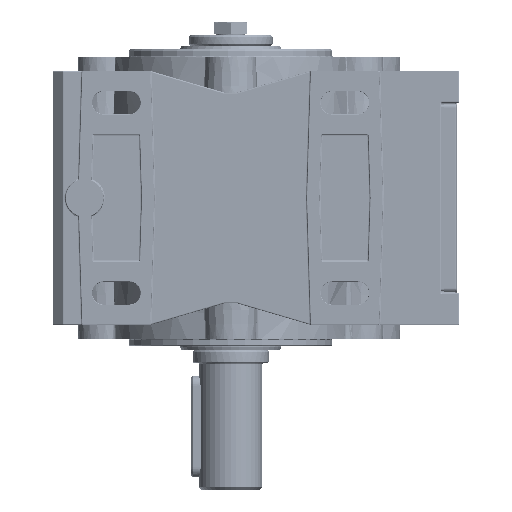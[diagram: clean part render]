
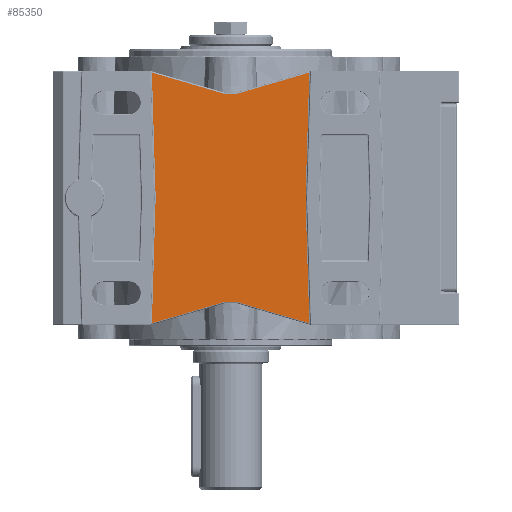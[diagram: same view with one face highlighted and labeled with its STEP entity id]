
A CAD part, left-side view. The second image highlights one B-rep face of the part: STEP entity #85350.
In plain terms, the highlighted planar face has unit normal (-1, 0, 0).
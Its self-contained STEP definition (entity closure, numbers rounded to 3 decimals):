
#79617=CARTESIAN_POINT('',(-69.0,-2.778,-62.561));
#79618=VERTEX_POINT('',#79617);
#79636=CARTESIAN_POINT('',(-69.0,-30.98,-70.826));
#79637=VERTEX_POINT('',#79636);
#79645=CARTESIAN_POINT('',(-69.0,-30.98,-70.826));
#79646=DIRECTION('',(0.0,0.96,0.281));
#79647=VECTOR('',#79646,29.388);
#79648=LINE('',#79645,#79647);
#79649=EDGE_CURVE('',#79637,#79618,#79648,.T.);
#79659=CARTESIAN_POINT('',(-69.0,-2.356,-62.5));
#79660=VERTEX_POINT('',#79659);
#79678=CARTESIAN_POINT('',(-69.0,-2.356,-64.));
#79679=DIRECTION('',(-1.0,0.,0.));
#79680=DIRECTION('',(0.,-0.142,0.99));
#79681=AXIS2_PLACEMENT_3D('',#79678,#79679,#79680);
#79682=CIRCLE('',#79681,1.5);
#79683=EDGE_CURVE('',#79618,#79660,#79682,.T.);
#79693=CARTESIAN_POINT('',(-69.0,2.356,-62.5));
#79694=VERTEX_POINT('',#79693);
#79711=CARTESIAN_POINT('',(-69.0,-2.356,-62.5));
#79712=DIRECTION('',(0.0,1.0,0.0));
#79713=VECTOR('',#79712,4.713);
#79714=LINE('',#79711,#79713);
#79715=EDGE_CURVE('',#79660,#79694,#79714,.T.);
#79725=CARTESIAN_POINT('',(-69.0,2.778,-62.561));
#79726=VERTEX_POINT('',#79725);
#79744=CARTESIAN_POINT('',(-69.0,2.356,-64.));
#79745=DIRECTION('',(-1.0,0.,0.));
#79746=DIRECTION('',(0.,0.142,0.99));
#79747=AXIS2_PLACEMENT_3D('',#79744,#79745,#79746);
#79748=CIRCLE('',#79747,1.5);
#79749=EDGE_CURVE('',#79694,#79726,#79748,.T.);
#79759=CARTESIAN_POINT('',(-69.,30.98,-70.826));
#79760=VERTEX_POINT('',#79759);
#79777=CARTESIAN_POINT('',(-69.0,2.778,-62.561));
#79778=DIRECTION('',(0.,0.96,-0.281));
#79779=VECTOR('',#79778,29.388);
#79780=LINE('',#79777,#79779);
#79781=EDGE_CURVE('',#79726,#79760,#79780,.T.);
#80070=CARTESIAN_POINT('',(-69.0,-29.501,-21.53));
#80071=VERTEX_POINT('',#80070);
#80079=CARTESIAN_POINT('',(-69.0,-29.501,-21.53));
#80080=DIRECTION('',(0.0,-0.03,-1.));
#80081=VECTOR('',#80080,49.319);
#80082=LINE('',#80079,#80081);
#80083=EDGE_CURVE('',#80071,#79637,#80082,.T.);
#80474=CARTESIAN_POINT('',(-69.0,2.778,19.561));
#80475=VERTEX_POINT('',#80474);
#80493=CARTESIAN_POINT('',(-69.,30.98,27.826));
#80494=VERTEX_POINT('',#80493);
#80502=CARTESIAN_POINT('',(-69.,30.98,27.826));
#80503=DIRECTION('',(0.,-0.96,-0.281));
#80504=VECTOR('',#80503,29.388);
#80505=LINE('',#80502,#80504);
#80506=EDGE_CURVE('',#80494,#80475,#80505,.T.);
#80516=CARTESIAN_POINT('',(-69.0,2.356,19.5));
#80517=VERTEX_POINT('',#80516);
#80535=CARTESIAN_POINT('',(-69.0,2.356,21.0));
#80536=DIRECTION('',(-1.0,0.,0.));
#80537=DIRECTION('',(0.,0.142,-0.99));
#80538=AXIS2_PLACEMENT_3D('',#80535,#80536,#80537);
#80539=CIRCLE('',#80538,1.5);
#80540=EDGE_CURVE('',#80475,#80517,#80539,.T.);
#80550=CARTESIAN_POINT('',(-69.0,-2.356,19.5));
#80551=VERTEX_POINT('',#80550);
#80568=CARTESIAN_POINT('',(-69.0,2.356,19.5));
#80569=DIRECTION('',(0.0,-1.0,0.0));
#80570=VECTOR('',#80569,4.713);
#80571=LINE('',#80568,#80570);
#80572=EDGE_CURVE('',#80517,#80551,#80571,.T.);
#80582=CARTESIAN_POINT('',(-69.0,-2.778,19.561));
#80583=VERTEX_POINT('',#80582);
#80601=CARTESIAN_POINT('',(-69.0,-2.356,21.0));
#80602=DIRECTION('',(-1.0,0.,0.));
#80603=DIRECTION('',(0.,-0.142,-0.99));
#80604=AXIS2_PLACEMENT_3D('',#80601,#80602,#80603);
#80605=CIRCLE('',#80604,1.5);
#80606=EDGE_CURVE('',#80551,#80583,#80605,.T.);
#80616=CARTESIAN_POINT('',(-69.0,-30.98,27.826));
#80617=VERTEX_POINT('',#80616);
#80634=CARTESIAN_POINT('',(-69.0,-2.778,19.561));
#80635=DIRECTION('',(0.0,-0.96,0.281));
#80636=VECTOR('',#80635,29.388);
#80637=LINE('',#80634,#80636);
#80638=EDGE_CURVE('',#80583,#80617,#80637,.T.);
#83331=CARTESIAN_POINT('',(-69.,29.5,-21.479));
#83332=VERTEX_POINT('',#83331);
#83340=CARTESIAN_POINT('',(-69.,29.5,-21.479));
#83341=DIRECTION('',(0.0,0.03,1.));
#83342=VECTOR('',#83341,49.328);
#83343=LINE('',#83340,#83342);
#83344=EDGE_CURVE('',#83332,#80494,#83343,.T.);
#83354=CARTESIAN_POINT('',(-69.,29.5,-21.521));
#83355=VERTEX_POINT('',#83354);
#83363=CARTESIAN_POINT('',(-69.,30.2,-21.5));
#83364=DIRECTION('',(-1.0,0.0,0.0));
#83365=DIRECTION('',(0.0,-1.0,0.0));
#83366=AXIS2_PLACEMENT_3D('',#83363,#83364,#83365);
#83367=CIRCLE('',#83366,0.7);
#83368=EDGE_CURVE('',#83355,#83332,#83367,.T.);
#83381=CARTESIAN_POINT('',(-69.,30.98,-70.826));
#83382=DIRECTION('',(0.0,-0.03,1.));
#83383=VECTOR('',#83382,49.328);
#83384=LINE('',#83381,#83383);
#83385=EDGE_CURVE('',#79760,#83355,#83384,.T.);
#85289=CARTESIAN_POINT('',(-69.0,-29.501,-21.47));
#85290=VERTEX_POINT('',#85289);
#85298=CARTESIAN_POINT('',(-69.0,-30.5,-21.5));
#85299=DIRECTION('',(-1.0,0.0,0.0));
#85300=DIRECTION('',(0.0,1.0,0.0));
#85301=AXIS2_PLACEMENT_3D('',#85298,#85299,#85300);
#85302=CIRCLE('',#85301,1.0);
#85303=EDGE_CURVE('',#85290,#80071,#85302,.T.);
#85316=CARTESIAN_POINT('',(-69.0,-30.98,27.826));
#85317=DIRECTION('',(0.0,0.03,-1.));
#85318=VECTOR('',#85317,49.319);
#85319=LINE('',#85316,#85318);
#85320=EDGE_CURVE('',#80617,#85290,#85319,.T.);
#85327=CARTESIAN_POINT('',(-69.0,0.,3.836));
#85328=DIRECTION('',(1.0,0.0,0.0));
#85329=DIRECTION('',(0.0,0.0,-1.0));
#85330=AXIS2_PLACEMENT_3D('',#85327,#85328,#85329);
#85331=PLANE('',#85330);
#85332=ORIENTED_EDGE('',*,*,#79649,.F.);
#85333=ORIENTED_EDGE('',*,*,#80083,.F.);
#85334=ORIENTED_EDGE('',*,*,#85303,.F.);
#85335=ORIENTED_EDGE('',*,*,#85320,.F.);
#85336=ORIENTED_EDGE('',*,*,#80638,.F.);
#85337=ORIENTED_EDGE('',*,*,#80606,.F.);
#85338=ORIENTED_EDGE('',*,*,#80572,.F.);
#85339=ORIENTED_EDGE('',*,*,#80540,.F.);
#85340=ORIENTED_EDGE('',*,*,#80506,.F.);
#85341=ORIENTED_EDGE('',*,*,#83344,.F.);
#85342=ORIENTED_EDGE('',*,*,#83368,.F.);
#85343=ORIENTED_EDGE('',*,*,#83385,.F.);
#85344=ORIENTED_EDGE('',*,*,#79781,.F.);
#85345=ORIENTED_EDGE('',*,*,#79749,.F.);
#85346=ORIENTED_EDGE('',*,*,#79715,.F.);
#85347=ORIENTED_EDGE('',*,*,#79683,.F.);
#85348=EDGE_LOOP('',(#85332,#85333,#85334,#85335,#85336,#85337,#85338,#85339,#85340,#85341,#85342,#85343,#85344,#85345,#85346,#85347));
#85349=FACE_OUTER_BOUND('',#85348,.T.);
#85350=ADVANCED_FACE('',(#85349),#85331,.F.);
